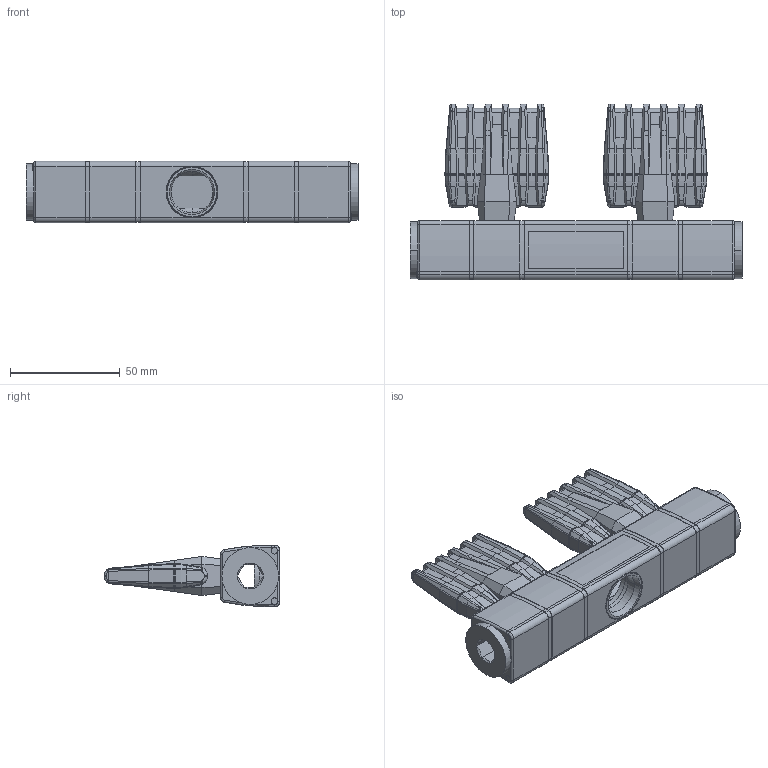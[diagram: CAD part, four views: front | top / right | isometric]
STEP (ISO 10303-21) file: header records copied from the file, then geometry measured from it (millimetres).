
FILE_DESCRIPTION (( 'STEP AP214' ), '1' );
FILE_NAME ('SILVENT 304 Z+.STEP', '2014-03-26T07:30:05', ( 'silvpesv' ), ( '' ), 'SwSTEP 2.0', 'SolidWorks 2013', '' );
FILE_SCHEMA (( 'AUTOMOTIVE_DESIGN' ));
Length unit declared in the file: millimetre
Products named in the file (1): SILVENT 304 Z+
Bounding box: 151 x 80 x 28.01 mm (x, y, z)
Surface area: 35678.8 mm2 (no closed solid volume)
Topology: 0 solids, 15 shells, 1043 faces, 2735 edges, 1682 vertices
Faces by surface type: plane 454, cylinder 414, bspline 117, cone 36, torus 14, sphere 8
Entity records: 53528 total; most frequent: CARTESIAN_POINT 19238, ORIENTED_EDGE 4922, DIRECTION 4315, EDGE_CURVE 2735, VERTEX_POINT 1682, LINE 1505, VECTOR 1505, AXIS2_PLACEMENT_3D 1405
